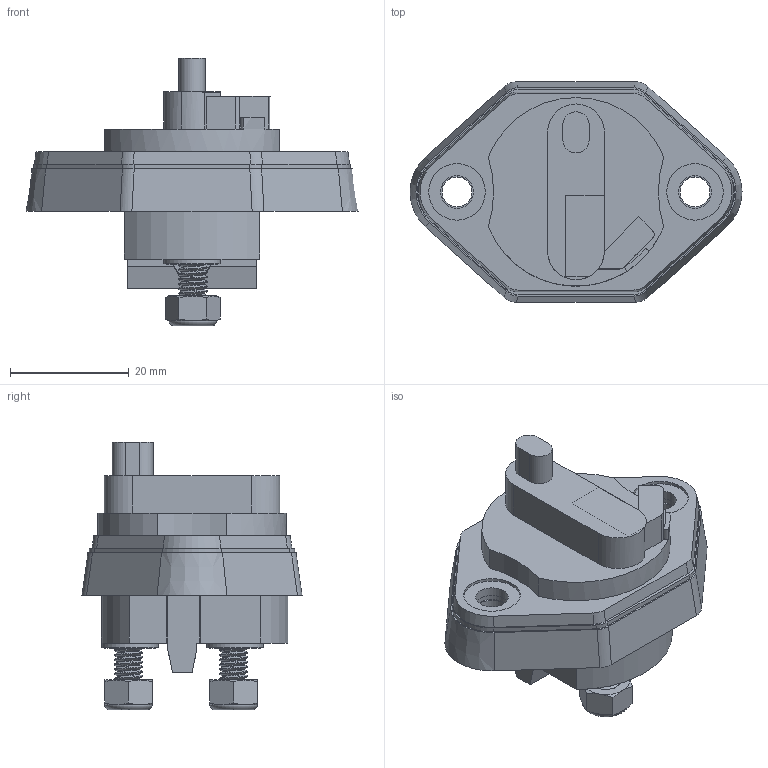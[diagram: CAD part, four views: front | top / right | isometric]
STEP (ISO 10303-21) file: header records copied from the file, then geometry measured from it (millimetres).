
FILE_DESCRIPTION(/* description */ (''),/* implementation_level */ '2;1');
FILE_NAME(/* name */ '643.stp',/* time_stamp */ '2023-10-18T08:15:58-07:00',/* author */ ('RaniahC'),/* organization */ (''),/* preprocessor_version */ 'ST-DEVELOPER v19.2',/* originating_system */ 'Autodesk Inventor 2024',/* authorisation */ '');
FILE_SCHEMA (('AUTOMOTIVE_DESIGN { 1 0 10303 214 3 1 1 }'));
Length unit declared in the file: millimetre
Products named in the file (10): 643 Assembly; Rubber; Bottom Base; Updated Upper base; Raised Base; updated bottom; 90322A637_High-Strength Steel Threaded Rod; 90576A104_Medium-Strength Steel Nylon-Insert Locknut; Part44; Button Chasis
Assembly tree (11 placements, depth 3):
  643 Assembly
    Rubber
    Bottom Base
    Updated Upper base
    Raised Base
    updated bottom
      90322A637_High-Strength Steel Threaded Rod  x2
      90576A104_Medium-Strength Steel Nylon-Insert Locknut  x2
      Part44
    Button Chasis
Bounding box: 55.81 x 37.01 x 44.95 mm (x, y, z)
Volume: 24900.2 mm3; surface area: 17078.7 mm2
Topology: 12 solids, 12 shells, 293 faces, 750 edges, 490 vertices
Faces by surface type: cylinder 122, plane 115, cone 34, bspline 16, torus 6
Full cylindrical faces by diameter (mm): 3.795 x24, 3.961 x8, 4.826 x22, 5 x8, 5.029 x2, 5.147 x2, 5.5 x4, 8.53 x2, 9.5 x2, 9.52 x2
Entity records: 11771 total; most frequent: CARTESIAN_POINT 6162, ORIENTED_EDGE 1118, DIRECTION 1030, EDGE_CURVE 559, AXIS2_PLACEMENT_3D 371, VERTEX_POINT 367, LINE 288, VECTOR 288
